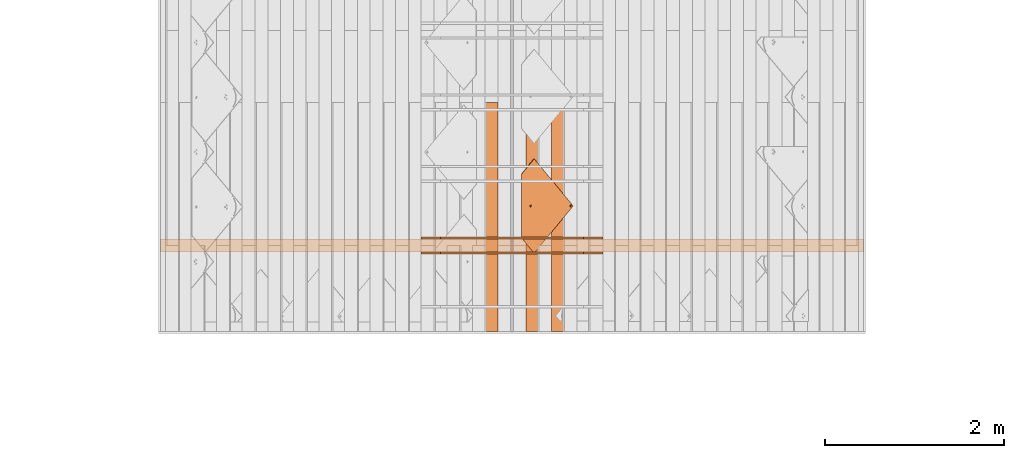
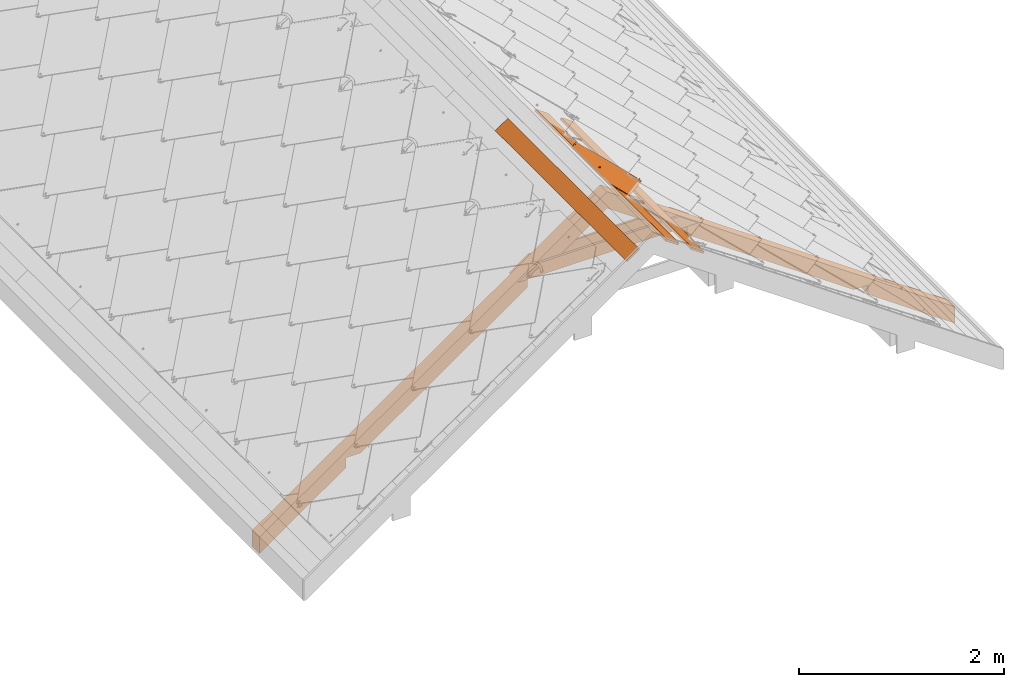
# One storey, part 16 of 151: 7 proxies, 1 element without a shape of its own.
"""IFC2X3 building model written with IfcOpenShell, lengths in millimetres."""

from ifc_helpers import new_model, entity, si_unit, converted_unit, derived_unit, direction, frame, frame_2d, origin, place, context, subcontext, project, spatial, polyline, rectangle, outline, extrude, faceted_brep, source, transform, mapped, material, material_list, type_object, type_shapes, element, aggregate, save


model = new_model("IFC2X3")

# Units and contexts
model_context = context("Model", 3, precision=0.01, world=origin(), true_north=direction((6.12303176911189e-17, 1.0)))
body_context = subcontext(model_context, "Body", "Model", "MODEL_VIEW")
ifc_project = project(units=[si_unit("LENGTHUNIT", "METRE", prefix="MILLI"), si_unit("AREAUNIT", "SQUARE_METRE"), si_unit("VOLUMEUNIT", "CUBIC_METRE"), converted_unit("PLANEANGLEUNIT", "DEGREE", entity("IfcRatioMeasure", 0.0174532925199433), si_unit("PLANEANGLEUNIT", "RADIAN"), dimensions=[0, 0, 0, 0, 0, 0, 0]), si_unit("MASSUNIT", "GRAM", prefix="KILO"), derived_unit("MASSDENSITYUNIT", [(si_unit("MASSUNIT", "GRAM", prefix="KILO"), 1), (si_unit("LENGTHUNIT", "METRE"), -3)]), si_unit("TIMEUNIT", "SECOND"), si_unit("FREQUENCYUNIT", "HERTZ"), si_unit("THERMODYNAMICTEMPERATUREUNIT", "DEGREE_CELSIUS"), derived_unit("THERMALTRANSMITTANCEUNIT", [(si_unit("MASSUNIT", "GRAM", prefix="KILO"), 1), (si_unit("THERMODYNAMICTEMPERATUREUNIT", "KELVIN"), -1), (si_unit("TIMEUNIT", "SECOND"), -3)]), derived_unit("VOLUMETRICFLOWRATEUNIT", [(si_unit("LENGTHUNIT", "METRE"), 3), (si_unit("TIMEUNIT", "SECOND"), -1)]), si_unit("ELECTRICCURRENTUNIT", "AMPERE"), si_unit("ELECTRICVOLTAGEUNIT", "VOLT"), si_unit("POWERUNIT", "WATT"), si_unit("FORCEUNIT", "NEWTON", prefix="KILO"), si_unit("ILLUMINANCEUNIT", "LUX"), si_unit("LUMINOUSFLUXUNIT", "LUMEN"), si_unit("LUMINOUSINTENSITYUNIT", "CANDELA"), derived_unit("USERDEFINED", [(si_unit("MASSUNIT", "GRAM", prefix="KILO"), -1), (si_unit("LENGTHUNIT", "METRE"), -2), (si_unit("TIMEUNIT", "SECOND"), 3), (si_unit("LUMINOUSFLUXUNIT", "LUMEN"), 1)]), derived_unit("LINEARVELOCITYUNIT", [(si_unit("LENGTHUNIT", "METRE"), 1), (si_unit("TIMEUNIT", "SECOND"), -1)]), si_unit("PRESSUREUNIT", "PASCAL"), derived_unit("USERDEFINED", [(si_unit("LENGTHUNIT", "METRE"), -2), (si_unit("MASSUNIT", "GRAM", prefix="KILO"), 1), (si_unit("TIMEUNIT", "SECOND"), -2)])], contexts=[model_context])

# Site, building, storey
site_placement = place(None, origin())
site = spatial("IfcSite", under=ifc_project, at=site_placement, Name="Default", CompositionType="ELEMENT")
building_placement = place(site_placement, origin())
building = spatial("IfcBuilding", under=site, at=building_placement, CompositionType="ELEMENT")
storey_placement = place(building_placement, origin())
storey = spatial("IfcBuildingStorey", under=building, at=storey_placement, Name="Level 1", CompositionType="ELEMENT", Elevation=0.0)

# Assembly, proxies
assembly_placement = place(storey_placement, origin())
assembly = element("IfcElementAssembly", 1, at=assembly_placement, inside=storey, Name="Structural Framing Assembly:Roof Construction Assembly", ObjectType="Structural Framing Assembly:Roof Construction Assembly", AssemblyPlace="NOTDEFINED", PredefinedType="USERDEFINED")
ifc_material_1 = material(Name="Wood - Generic - Wood For Showcase")
building_element_proxy_type_1 = type_object("IfcBuildingElementProxyType", Name="Structural Framing 1", PredefinedType="NOTDEFINED", material=ifc_material_1)
shared_shape_1 = source(origin(), body_context, "Body", "SweptSolid", [
    extrude(outline(polyline([(-929.245683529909, -1327.10037070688), (3863.2595049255, -1327.10037070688), (3975.29271103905, -1167.10037070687), (2778.93361405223, -1167.10037070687), (2713.54351952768, -1260.4871038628), (2580.17344271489, -1167.10037070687), (278.933614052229, -1167.10037070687), (213.543519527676, -1260.48710386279), (80.1734427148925, -1167.10037070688), (-817.212477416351, -1167.10037070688), (-1124.13653843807, -323.833443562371), (-1257.50661525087, -230.446710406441), (-1192.11652072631, -137.059977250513), (-1979.18689675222, 2025.39810840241), (-2112.55697356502, 2118.78484155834), (-2047.16687904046, 2212.17157471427), (-2456.3457888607, 3336.38138996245), (-2568.37899497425, 3176.38138996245), (-929.245683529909, -1327.10037070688)])), frame((1206.77890726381, 3785.55080214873, 1179.90959070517), z_axis=(0.0, 1.0, 0.0), x_axis=(0.819152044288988, 0.0, -0.573576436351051)), (0.0, 0.0, 1.0), 140.0),
])
type_shapes(building_element_proxy_type_1, [shared_shape_1])
proxy_1_placement = place(assembly_placement, frame((57.4878711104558, -9600.0, 0.0)))
proxy_1 = element("IfcBuildingElementProxy", 2, at=proxy_1_placement, type_object=building_element_proxy_type_1, material=ifc_material_1, Name="Structural Framing 13:Structural Framing 1", ObjectType="Structural Framing 13:Structural Framing 1", context=body_context, shape_type="MappedRepresentation", body=[
    mapped(shared_shape_1, transform((0.0, 0.0, 0.0), scale=1.0)),
])
building_element_proxy_type_2 = type_object("IfcBuildingElementProxyType", Name="Structural Framing 15", PredefinedType="NOTDEFINED", material=ifc_material_1)
shared_shape_2 = source(origin(), body_context, "Body", "SweptSolid", [
    extrude(rectangle(XDim=24.9999999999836, YDim=174.344679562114, at=frame_2d((3.73923114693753e-13, 6.3948846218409e-14), x_axis=(1.0, 0.0))), frame((1285.35601305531, 1437.09519417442, 2760.23940055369), z_axis=(0.0, 1.0, 0.0), x_axis=(0.573576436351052, 0.0, 0.819152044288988)), (0.0, 0.0, 1.0), 2558.4556079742),
])
type_shapes(building_element_proxy_type_2, [shared_shape_2])
proxy_2_placement = place(assembly_placement, frame((200.302671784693, -8140.0, -100.0)))
proxy_2 = element("IfcBuildingElementProxy", 3, at=proxy_2_placement, type_object=building_element_proxy_type_2, material=ifc_material_1, Name="Structural Framing 163:Structural Framing 15", ObjectType="Structural Framing 163:Structural Framing 15", context=body_context, shape_type="MappedRepresentation", body=[
    mapped(shared_shape_2, transform((0.0, 0.0, 0.0), scale=1.0)),
])
building_element_proxy_type_3 = type_object("IfcBuildingElementProxyType", Name="Structural Framing 15", PredefinedType="NOTDEFINED", material=ifc_material_1)
shared_shape_3 = source(origin(), body_context, "Body", "SweptSolid", [
    extrude(rectangle(XDim=24.9999999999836, YDim=174.344679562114, at=frame_2d((3.73923114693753e-13, 6.3948846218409e-14), x_axis=(1.0, 0.0))), frame((1285.35601305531, 1437.09519417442, 2760.23940055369), z_axis=(0.0, 1.0, 0.0), x_axis=(0.573576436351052, 0.0, 0.819152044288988)), (0.0, 0.0, 1.0), 2558.4556079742),
])
type_shapes(building_element_proxy_type_3, [shared_shape_3])
proxy_3_placement = place(assembly_placement, frame((485.932273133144, -8140.0, -300.0)))
proxy_3 = element("IfcBuildingElementProxy", 4, at=proxy_3_placement, type_object=building_element_proxy_type_3, material=ifc_material_1, Name="Structural Framing 173:Structural Framing 15", ObjectType="Structural Framing 173:Structural Framing 15", context=body_context, shape_type="MappedRepresentation", body=[
    mapped(shared_shape_3, transform((0.0, 0.0, 0.0), scale=1.0)),
])
building_element_proxy_type_4 = type_object("IfcBuildingElementProxyType", Name="Structural Framing 15", PredefinedType="NOTDEFINED", material=ifc_material_1)
shared_shape_4 = source(origin(), body_context, "Body", "SweptSolid", [
    extrude(rectangle(XDim=24.9999999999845, YDim=174.344679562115, at=frame_2d((-1.77635683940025e-13, -4.54747350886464e-13), x_axis=(0.0, 1.0))), frame((1128.20180147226, 1437.09519417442, 2760.23940055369), z_axis=(0.0, 1.0, 0.0), x_axis=(-0.819152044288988, 0.0, -0.573576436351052)), (0.0, 0.0, 1.0), 2558.4556079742),
])
type_shapes(building_element_proxy_type_4, [shared_shape_4])
proxy_4_placement = place(assembly_placement, frame((-85.3269295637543, -8140.0, -100.0)))
proxy_4 = element("IfcBuildingElementProxy", 5, at=proxy_4_placement, type_object=building_element_proxy_type_4, material=ifc_material_1, Name="Structural Framing 23:Structural Framing 15", ObjectType="Structural Framing 23:Structural Framing 15", context=body_context, shape_type="MappedRepresentation", body=[
    mapped(shared_shape_4, transform((0.0, 0.0, 0.0), scale=1.0)),
])
building_element_proxy_type_5 = type_object("IfcBuildingElementProxyType", Name="Structural Framing 296", PredefinedType="NOTDEFINED", material=ifc_material_1)
shared_shape_5 = source(origin(), body_context, "Body", "SweptSolid", [
    extrude(outline(polyline([(-1014.04699829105, -75.0), (1014.04699829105, -75.0), (799.824797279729, 75.0), (-799.824797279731, 75.0), (-1014.04699829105, -75.0)])), frame((1206.77890726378, 3760.55080214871, 2164.95664769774), z_axis=(0.0, 1.0, 0.0), x_axis=(-1.0, 0.0, 0.0)), (0.0, 0.0, 1.0), 24.9999999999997),
])
type_shapes(building_element_proxy_type_5, [shared_shape_5])
proxy_5_placement = place(assembly_placement, frame((57.4878711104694, -9600.0, 0.0)))
proxy_5 = element("IfcBuildingElementProxy", 6, at=proxy_5_placement, type_object=building_element_proxy_type_5, material=ifc_material_1, Name="Structural Framing 319:Structural Framing 296", ObjectType="Structural Framing 319:Structural Framing 296", context=body_context, shape_type="MappedRepresentation", body=[
    mapped(shared_shape_5, transform((0.0, 0.0, 0.0), scale=1.0)),
])
building_element_proxy_type_6 = type_object("IfcBuildingElementProxyType", Name="Structural Framing 296", PredefinedType="NOTDEFINED", material=ifc_material_1)
shared_shape_6 = source(origin(), body_context, "Body", "SweptSolid", [
    extrude(outline(polyline([(-1014.04699829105, -75.0), (1014.04699829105, -75.0), (799.824797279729, 75.0), (-799.824797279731, 75.0), (-1014.04699829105, -75.0)])), frame((1206.77890726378, 2325.55080214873, 2164.95664769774), z_axis=(0.0, 1.0, 0.0), x_axis=(-1.0, 0.0, 0.0)), (0.0, 0.0, 1.0), 25.0),
])
type_shapes(building_element_proxy_type_6, [shared_shape_6])
proxy_6_placement = place(assembly_placement, frame((57.4878711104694, -8000.0, 0.0)))
proxy_6 = element("IfcBuildingElementProxy", 7, at=proxy_6_placement, type_object=building_element_proxy_type_6, material=ifc_material_1, Name="Structural Framing 320:Structural Framing 296", ObjectType="Structural Framing 320:Structural Framing 296", context=body_context, shape_type="MappedRepresentation", body=[
    mapped(shared_shape_6, transform((0.0, 0.0, 0.0), scale=1.0)),
])
aggregate(assembly, [proxy_1, proxy_2, proxy_3, proxy_4, proxy_5, proxy_6])

# Proxy
ifc_material_2 = material(Name="Rubber - Sunstyle - Black")
ifc_material_3 = material(Name="Glass - Sunstyle - Tainted Black")
ifc_material_list_1 = material_list([ifc_material_2, ifc_material_3])
ifc_material_list_2 = material_list([ifc_material_2, ifc_material_3])
building_element_proxy_type_7 = type_object("IfcBuildingElementProxyType", Name="Shingle Top - Black", PredefinedType="NOTDEFINED", material=ifc_material_list_2)
shared_shape_7 = source(origin(), body_context, "Body", "Brep", [
    faceted_brep([(-518.396436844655, -96.9865733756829, 16.4476231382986), (-518.396436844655, -96.9614556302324, 17.9474128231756), (-526.881123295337, -88.4767691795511, 17.8053154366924), (-526.881123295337, -88.5018869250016, 16.3055257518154), (-376.996804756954, 61.3404039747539, 13.7960402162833), (-368.512118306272, 52.8557175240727, 13.9381376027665), (-376.996804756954, 61.3655217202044, 15.2958299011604), (-368.512118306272, 52.8808352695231, 15.4379272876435)], [[[0, 1, 2, 3]], [[0, 3, 4, 5]], [[3, 2, 6, 4]], [[2, 1, 7, 6]], [[1, 0, 5, 7]], [[5, 4, 6, 7]]]),
    faceted_brep([(0.166366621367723, -33.6374645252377, -4.47296585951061), (-5.6078362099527, -36.9707346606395, -4.4171418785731), (-5.60783620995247, -36.6024255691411, 17.5747274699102), (0.166366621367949, -33.2691554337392, 17.5189034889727), (-5.60783620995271, -43.6372749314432, -4.30549391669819), (-5.60783620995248, -43.2689658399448, 17.6863754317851), (0.166366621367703, -46.9705450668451, -4.24966993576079), (0.166366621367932, -46.6022359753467, 17.7421994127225), (5.94056945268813, -43.6372749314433, -4.30549391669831), (5.94056945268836, -43.2689658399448, 17.686375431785), (5.94056945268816, -36.9707346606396, -4.41714187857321), (5.94056945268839, -36.6024255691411, 17.5747274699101), (-8.43733754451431, -48.5381935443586, 17.774621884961), (0.16636662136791, -52.1014648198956, 17.8342978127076), (-12.0011084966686, -39.9356957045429, 17.6305514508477), (-8.43733754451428, -31.3331978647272, 17.4864810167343), (0.166366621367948, -27.7699265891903, 17.4268050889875), (8.77007078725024, -31.3331978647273, 17.4864810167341), (12.3338417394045, -39.935695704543, 17.6305514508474), (8.77007078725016, -48.5381935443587, 17.7746218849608), (-11.1578780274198, -37.6406185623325, 19.9433933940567), (-9.59010793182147, -39.8646808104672, 21.8708760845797), (0.166366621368, -32.5516055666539, 22.5035764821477), (0.166366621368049, -31.3111079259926, 21.9232298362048), (0.166366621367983, -29.1535570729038, 20.9138547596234), (0.166366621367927, -51.5454208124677, 19.1093557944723), (0.166366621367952, -50.6018442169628, 21.273060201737), (0.166366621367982, -47.1524685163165, 22.7481046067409), (0.166366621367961, -28.2829626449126, 18.7197675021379), (-6.15687907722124, -43.5022527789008, 22.6869725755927), (-6.15687907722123, -36.2018213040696, 22.5647085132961), (11.4906112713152, -42.1520387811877, 20.0189484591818), (10.0152467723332, -40.9390872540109, 21.7920079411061), (6.48961231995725, -36.2018213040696, 22.564708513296), (6.48961231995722, -43.5022527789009, 22.6869725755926), (-6.15687907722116, -43.3682243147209, 30.68986075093), (0.166366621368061, -47.0184400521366, 30.7509927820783), (0.166366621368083, -39.7180085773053, 30.6287287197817), (-6.15687907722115, -36.0677928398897, 30.5675966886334), (6.48961231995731, -43.368224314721, 30.6898607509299), (6.48961231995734, -36.0677928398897, 30.5675966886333), (0.166366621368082, -32.417577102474, 30.5064646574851), (0.166366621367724, -40.3040047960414, -4.36131789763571)], [[[0, 1, 2, 3]], [[1, 4, 5, 2]], [[4, 6, 7, 5]], [[6, 8, 9, 7]], [[8, 10, 11, 9]], [[10, 0, 3, 11]], [[12, 7, 13]], [[7, 12, 5]], [[14, 5, 12]], [[5, 14, 2]], [[15, 2, 14]], [[3, 2, 15]], [[15, 16, 3]], [[16, 17, 3]], [[11, 3, 17]], [[11, 17, 18]], [[9, 11, 18]], [[18, 19, 9]], [[7, 9, 19]], [[19, 13, 7]], [[20, 14, 12]], [[21, 22, 23, 24]], [[24, 20, 21]], [[25, 20, 12]], [[26, 27, 21]], [[15, 14, 20]], [[12, 13, 25]], [[20, 28, 15]], [[28, 20, 24]], [[21, 27, 29]], [[21, 29, 30]], [[26, 21, 20]], [[20, 25, 26]], [[15, 28, 16]], [[21, 30, 22]], [[31, 18, 17]], [[28, 31, 17]], [[32, 27, 26]], [[26, 31, 32]], [[26, 25, 31]], [[25, 19, 31]], [[17, 16, 28]], [[31, 19, 18]], [[24, 31, 28]], [[33, 34, 32]], [[23, 22, 33]], [[24, 32, 31]], [[27, 32, 34]], [[32, 23, 33]], [[19, 25, 13]], [[32, 24, 23]], [[35, 36, 37]], [[37, 38, 35]], [[36, 39, 37]], [[40, 37, 39]], [[37, 40, 41]], [[37, 41, 38]], [[42, 6, 4]], [[4, 1, 42]], [[1, 0, 42]], [[42, 8, 6]], [[0, 10, 42]], [[8, 42, 10]], [[22, 30, 38, 41]], [[30, 29, 35, 38]], [[29, 27, 36, 35]], [[27, 34, 39, 36]], [[34, 33, 40, 39]], [[33, 22, 41, 40]]]),
    faceted_brep([(0.0, -573.927138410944, 4.00636906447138), (-5.77420283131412, -577.260408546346, 4.0621930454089), (-5.77420283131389, -576.892099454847, 26.0540623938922), (0.0, -573.558829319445, 25.9982384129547), (-5.77420283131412, -583.926948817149, 4.1738410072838), (-5.7742028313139, -583.558639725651, 26.1657103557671), (0.0, -587.260218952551, 4.2296649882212), (0.0, -586.891909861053, 26.2215343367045), (5.77420283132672, -583.926948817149, 4.17384100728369), (5.77420283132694, -583.558639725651, 26.165710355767), (5.77420283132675, -577.260408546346, 4.06219304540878), (5.77420283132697, -576.892099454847, 26.0540623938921), (-8.60370416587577, -588.827867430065, 26.253956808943), (0.0, -592.391138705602, 26.3136327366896), (-12.1674751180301, -580.225369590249, 26.1098863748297), (-8.60370416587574, -571.622871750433, 25.9658159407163), (0.0, -568.059600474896, 25.9061400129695), (8.60370416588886, -571.622871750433, 25.9658159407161), (12.1674751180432, -580.225369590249, 26.1098863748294), (8.60370416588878, -588.827867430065, 26.2539568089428), (-11.3242446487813, -577.930292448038, 28.4227283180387), (-9.75647455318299, -580.154354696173, 30.3502110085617), (0.0, -572.84127945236, 30.9829114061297), (0.0, -571.600781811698, 30.4025647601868), (0.0, -569.44323095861, 29.3931896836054), (0.0, -591.835094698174, 27.5886907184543), (0.0, -590.891518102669, 29.752395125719), (0.0, -587.442142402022, 31.227439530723), (0.0, -568.572636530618, 27.1991024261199), (-6.32324569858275, -583.791926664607, 31.1663074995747), (-6.32324569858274, -576.491495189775, 31.0440434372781), (11.3242446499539, -582.441712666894, 28.4982833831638), (9.84888015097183, -581.228761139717, 30.2713428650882), (6.32324569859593, -576.491495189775, 31.044043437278), (6.32324569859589, -583.791926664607, 31.1663074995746), (-6.32324569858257, -583.657898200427, 39.169195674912), (0.0, -587.308113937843, 39.2303277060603), (0.0, -580.007682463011, 39.1080636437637), (-6.32324569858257, -576.357466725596, 39.0469316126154), (6.32324569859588, -583.657898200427, 39.1691956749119), (6.32324569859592, -576.357466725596, 39.0469316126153), (0.0, -572.70725098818, 38.9857995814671), (0.0, -580.593678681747, 4.11801702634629)], [[[0, 1, 2, 3]], [[1, 4, 5, 2]], [[4, 6, 7, 5]], [[6, 8, 9, 7]], [[8, 10, 11, 9]], [[10, 0, 3, 11]], [[12, 7, 13]], [[7, 12, 5]], [[14, 5, 12]], [[5, 14, 2]], [[15, 2, 14]], [[3, 2, 15]], [[15, 16, 3]], [[16, 17, 3]], [[11, 3, 17]], [[11, 17, 18]], [[9, 11, 18]], [[18, 19, 9]], [[7, 9, 19]], [[19, 13, 7]], [[20, 14, 12]], [[21, 22, 23, 24]], [[24, 20, 21]], [[25, 20, 12]], [[26, 27, 21]], [[15, 14, 20]], [[12, 13, 25]], [[20, 28, 15]], [[28, 20, 24]], [[21, 27, 29]], [[21, 29, 30]], [[26, 21, 20]], [[20, 25, 26]], [[15, 28, 16]], [[21, 30, 22]], [[31, 18, 17]], [[28, 31, 17]], [[32, 27, 26]], [[26, 31, 32]], [[26, 25, 31]], [[25, 19, 31]], [[17, 16, 28]], [[31, 19, 18]], [[24, 31, 28]], [[33, 34, 32]], [[23, 22, 33]], [[24, 32, 31]], [[27, 32, 34]], [[32, 23, 33]], [[19, 25, 13]], [[32, 24, 23]], [[35, 36, 37]], [[37, 38, 35]], [[36, 39, 37]], [[40, 37, 39]], [[37, 40, 41]], [[37, 41, 38]], [[42, 6, 4]], [[4, 1, 42]], [[1, 0, 42]], [[42, 8, 6]], [[0, 10, 42]], [[8, 42, 10]], [[22, 30, 38, 41]], [[30, 29, 35, 38]], [[29, 27, 36, 35]], [[27, 34, 39, 36]], [[34, 33, 40, 39]], [[33, 22, 41, 40]]]),
    faceted_brep([(518.482751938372, -96.8754983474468, 17.9260478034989), (526.967438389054, -88.3908118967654, 17.7839504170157), (526.967438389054, -88.3656941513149, 19.2837401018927), (518.482751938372, -96.8503806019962, 19.4258374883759), (349.749400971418, 71.8105397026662, 15.1009763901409), (358.234087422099, 80.2952261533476, 14.9588790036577), (358.234087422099, 80.3203438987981, 16.4586686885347), (349.749400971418, 71.8356574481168, 16.6007660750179)], [[[0, 1, 2, 3]], [[1, 0, 4, 5]], [[2, 1, 5, 6]], [[3, 2, 6, 7]], [[0, 3, 7, 4]], [[4, 7, 6, 5]]]),
    faceted_brep([(358.234087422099, 80.2952261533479, 14.9588790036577), (6.94661128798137, -35.8890860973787, 16.9046771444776), (7.74581466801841, -37.8182632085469, 16.9369860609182), (5.67526230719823, -34.2324641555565, 16.8769328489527), (8.01840805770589, -39.8885252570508, 16.9716577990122), (7.74581466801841, -41.9587873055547, 17.0063295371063), (6.94661128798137, -43.8879644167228, 17.0386384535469), (526.967438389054, -88.3908118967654, 17.7839504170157), (4.01840805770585, -32.9612934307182, 16.855643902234), (2.08896041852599, -32.1622021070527, 16.8422611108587), (0.0184080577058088, -31.8896469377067, 16.8376964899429), (-358.233442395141, 80.2952261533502, 14.9588790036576), (-2.05214430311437, -32.1622021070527, 16.8422611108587), (-3.98159194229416, -32.9612934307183, 16.855643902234), (-5.63844619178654, -34.2324641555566, 16.8769328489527), (-6.90979517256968, -35.8890860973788, 16.9046771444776), (-7.70899855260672, -37.8182632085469, 16.9369860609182), (-7.98159194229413, -39.8885252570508, 16.9716577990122), (-7.70899855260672, -41.9587873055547, 17.0063295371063), (-6.90979517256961, -43.8879644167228, 17.0386384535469), (-526.966793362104, -88.390811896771, 17.7839504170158), (-5.63844619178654, -45.544586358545, 17.0663827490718), (-5.6568542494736, -574.226981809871, 25.9204974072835), (-6.92820323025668, -575.883603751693, 25.9482417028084), (-7.72740661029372, -577.812780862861, 25.980550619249), (-8.0, -579.883042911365, 26.015222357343), (-7.72740661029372, -581.953304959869, 26.049894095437), (0.000322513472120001, -615.210165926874, 26.6068637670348), (7.72740661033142, -581.953304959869, 26.049894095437), (6.92820323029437, -583.882482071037, 26.0822030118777), (5.65685424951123, -585.53910401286, 26.1099473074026), (4.0, -586.810274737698, 26.1312362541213), (2.070552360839, -587.609366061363, 26.1446190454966), (0.0, -587.881921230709, 26.1491836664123), (-2.0705523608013, -587.609366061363, 26.1446190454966), (-4.0, -586.810274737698, 26.1312362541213), (-5.65685424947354, -585.53910401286, 26.1099473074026), (-6.92820323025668, -583.882482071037, 26.0822030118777), (-4.0, -572.955811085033, 25.8992084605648), (-3.98159194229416, -46.8157570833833, 17.0876716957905), (-2.07055236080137, -572.156719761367, 25.8858256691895), (-2.05214430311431, -47.614848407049, 17.1010544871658), (0.0, -571.884164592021, 25.8812610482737), (0.0184080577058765, -47.8874035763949, 17.1056191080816), (2.07055236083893, -572.156719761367, 25.8858256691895), (2.08896041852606, -47.6148484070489, 17.1010544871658), (4.0, -572.955811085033, 25.8992084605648), (4.01840805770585, -46.8157570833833, 17.0876716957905), (5.65685424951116, -574.226981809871, 25.9204974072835), (5.67526230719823, -45.544586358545, 17.0663827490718), (6.92820323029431, -575.883603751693, 25.9482417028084), (7.72740661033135, -577.812780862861, 25.980550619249), (8.0, -579.883042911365, 26.015222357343), (-358.233442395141, 80.1947551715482, 8.9597202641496), (-6.90979517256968, -35.9895570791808, 10.9055184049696), (-7.70899855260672, -37.9187341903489, 10.9378273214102), (-5.63844619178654, -34.3329351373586, 10.8777741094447), (-7.98159194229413, -39.9889962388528, 10.9724990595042), (-7.70899855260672, -42.0592582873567, 11.0071707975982), (-6.90979517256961, -43.9884353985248, 11.0394797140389), (-526.966793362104, -88.4912828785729, 11.7847916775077), (-3.98159194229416, -33.0617644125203, 10.856485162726), (-2.05214430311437, -32.2626730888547, 10.8431023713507), (0.0184080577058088, -31.9901179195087, 10.8385377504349), (358.234087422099, 80.1947551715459, 8.95972026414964), (2.08896041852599, -32.2626730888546, 10.8431023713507), (4.01840805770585, -33.0617644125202, 10.856485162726), (5.67526230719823, -34.3329351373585, 10.8777741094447), (6.94661128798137, -35.9895570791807, 10.9055184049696), (7.74581466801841, -37.9187341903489, 10.9378273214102), (8.01840805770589, -39.9889962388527, 10.9724990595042), (7.74581466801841, -42.0592582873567, 11.0071707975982), (6.94661128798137, -43.9884353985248, 11.0394797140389), (526.967438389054, -88.4912828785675, 11.7847916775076), (5.67526230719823, -45.645057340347, 11.0672240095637), (5.65685424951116, -574.327452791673, 19.9213386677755), (6.92820323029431, -575.984074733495, 19.9490829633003), (7.72740661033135, -577.913251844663, 19.981391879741), (8.0, -579.983513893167, 20.016063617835), (7.72740661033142, -582.053775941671, 20.050735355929), (0.000322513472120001, -615.310636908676, 20.6077050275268), (-7.72740661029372, -582.053775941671, 20.050735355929), (-6.92820323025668, -583.982953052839, 20.0830442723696), (-5.65685424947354, -585.639574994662, 20.1107885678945), (-4.0, -586.9107457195, 20.1320775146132), (-2.0705523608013, -587.709837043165, 20.1454603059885), (0.0, -587.982392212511, 20.1500249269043), (2.070552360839, -587.709837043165, 20.1454603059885), (4.0, -586.9107457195, 20.1320775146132), (5.65685424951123, -585.639574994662, 20.1107885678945), (6.92820323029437, -583.982953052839, 20.0830442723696), (4.01840805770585, -46.9162280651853, 11.0885129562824), (4.0, -573.056282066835, 19.9000497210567), (2.08896041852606, -47.7153193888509, 11.1018957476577), (2.07055236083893, -572.257190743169, 19.8866669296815), (0.0184080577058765, -47.9878745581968, 11.1064603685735), (0.0, -571.984635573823, 19.8821023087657), (-2.05214430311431, -47.7153193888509, 11.1018957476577), (-2.07055236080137, -572.257190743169, 19.8866669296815), (-3.98159194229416, -46.9162280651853, 11.0885129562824), (-4.0, -573.056282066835, 19.9000497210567), (-5.63844619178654, -45.645057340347, 11.0672240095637), (-5.6568542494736, -574.327452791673, 19.9213386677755), (-6.92820323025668, -575.984074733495, 19.9490829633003), (-7.72740661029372, -577.913251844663, 19.981391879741), (-8.0, -579.983513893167, 20.016063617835)], [[[0, 1, 2]], [[1, 0, 3]], [[0, 2, 4]], [[4, 5, 0]], [[5, 6, 0]], [[7, 0, 6]], [[8, 3, 0]], [[9, 8, 0]], [[10, 9, 0]], [[0, 11, 10]], [[12, 10, 11]], [[13, 12, 11]], [[14, 13, 11]], [[11, 15, 14]], [[15, 11, 16]], [[16, 11, 17]], [[11, 18, 17]], [[18, 11, 19]], [[11, 20, 19]], [[19, 20, 21]], [[20, 22, 21]], [[23, 22, 20]], [[24, 23, 20]], [[24, 20, 25]], [[26, 25, 20]], [[27, 26, 20]], [[7, 28, 27]], [[29, 27, 28]], [[27, 29, 30]], [[30, 31, 27]], [[31, 32, 27]], [[27, 32, 33]], [[27, 33, 34]], [[34, 35, 27]], [[27, 35, 36]], [[36, 37, 27]], [[37, 26, 27]], [[38, 21, 22]], [[38, 39, 21]], [[38, 40, 39]], [[40, 41, 39]], [[40, 42, 41]], [[41, 42, 43]], [[44, 43, 42]], [[44, 45, 43]], [[45, 44, 46]], [[46, 47, 45]], [[46, 48, 47]], [[48, 49, 47]], [[50, 7, 48]], [[48, 7, 49]], [[7, 50, 51]], [[7, 51, 52]], [[52, 28, 7]], [[7, 6, 49]], [[53, 54, 55]], [[54, 53, 56]], [[53, 55, 57]], [[58, 53, 57]], [[59, 53, 58]], [[60, 53, 59]], [[61, 56, 53]], [[62, 61, 53]], [[53, 63, 62]], [[63, 53, 64]], [[65, 63, 64]], [[66, 65, 64]], [[64, 67, 66]], [[67, 64, 68]], [[68, 64, 69]], [[70, 69, 64]], [[71, 70, 64]], [[72, 71, 64]], [[72, 64, 73]], [[72, 73, 74]], [[74, 73, 75]], [[73, 76, 75]], [[76, 73, 77]], [[77, 73, 78]], [[79, 78, 73]], [[79, 73, 80]], [[60, 81, 80]], [[80, 81, 82]], [[80, 82, 83]], [[83, 84, 80]], [[84, 85, 80]], [[85, 86, 80]], [[80, 86, 87]], [[80, 87, 88]], [[80, 88, 89]], [[79, 80, 90]], [[80, 89, 90]], [[75, 91, 74]], [[75, 92, 91]], [[92, 93, 91]], [[93, 92, 94]], [[93, 94, 95]], [[96, 95, 94]], [[97, 95, 96]], [[96, 98, 97]], [[98, 99, 97]], [[98, 100, 99]], [[100, 101, 99]], [[100, 102, 101]], [[60, 101, 102]], [[103, 60, 102]], [[103, 104, 60]], [[104, 105, 60]], [[105, 81, 60]], [[59, 101, 60]], [[27, 20, 60, 80]], [[7, 27, 80, 73]], [[0, 7, 73, 64]], [[25, 105, 104, 24]], [[24, 104, 103, 23]], [[38, 22, 102, 100]], [[102, 22, 23, 103]], [[40, 38, 100, 98]], [[40, 98, 96, 42]], [[42, 96, 94, 44]], [[44, 94, 92, 46]], [[50, 48, 75, 76]], [[75, 48, 46, 92]], [[51, 50, 76, 77]], [[51, 77, 78, 52]], [[52, 78, 79, 28]], [[28, 79, 90, 29]], [[31, 30, 89, 88]], [[29, 90, 89, 30]], [[87, 32, 31, 88]], [[32, 87, 86, 33]], [[34, 33, 86, 85]], [[34, 85, 84, 35]], [[37, 36, 83, 82]], [[35, 84, 83, 36]], [[37, 82, 81, 26]], [[26, 81, 105, 25]], [[17, 57, 55, 16]], [[16, 55, 54, 15]], [[13, 14, 56, 61]], [[56, 14, 15, 54]], [[12, 13, 61, 62]], [[12, 62, 63, 10]], [[10, 63, 65, 9]], [[9, 65, 66, 8]], [[1, 3, 67, 68]], [[67, 3, 8, 66]], [[2, 1, 68, 69]], [[2, 69, 70, 4]], [[4, 70, 71, 5]], [[5, 71, 72, 6]], [[47, 49, 74, 91]], [[74, 49, 6, 72]], [[45, 47, 91, 93]], [[45, 93, 95, 43]], [[43, 95, 97, 41]], [[41, 97, 99, 39]], [[19, 21, 101, 59]], [[101, 21, 39, 99]], [[18, 19, 59, 58]], [[18, 58, 57, 17]], [[11, 0, 64, 53]], [[20, 11, 53, 60]]]),
])
type_shapes(building_element_proxy_type_7, [shared_shape_7])
proxy_7_placement = place(storey_placement, frame((1429.25691597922, -5302.53848928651, 2714.99202663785), z_axis=(0.573576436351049, 0.0, 0.81915204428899), x_axis=(0.0, 1.0, 0.0)))
element("IfcBuildingElementProxy", 8, at=proxy_7_placement, inside=storey, type_object=building_element_proxy_type_7, material=ifc_material_list_1, Name="Roofing_Panels_SunStyle_Tile_Shingle-Top:Shingle Top - Black", ObjectType="Roofing_Panels_SunStyle_Tile_Shingle-Top:Shingle Top - Black", context=body_context, shape_type="MappedRepresentation", body=[
    mapped(shared_shape_7, transform((0.0, 0.0, 0.0), scale=1.0)),
])

save(model, "model.ifc")
